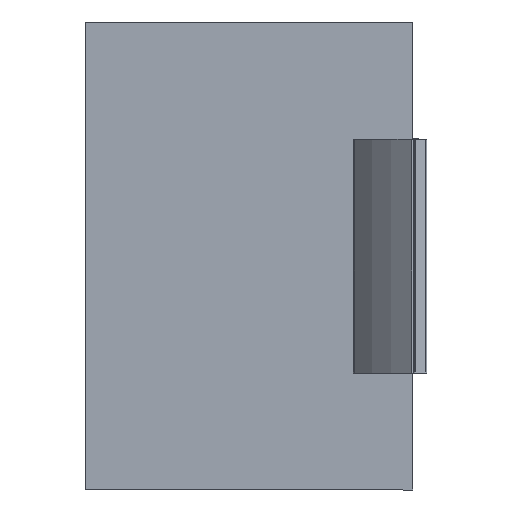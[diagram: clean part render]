
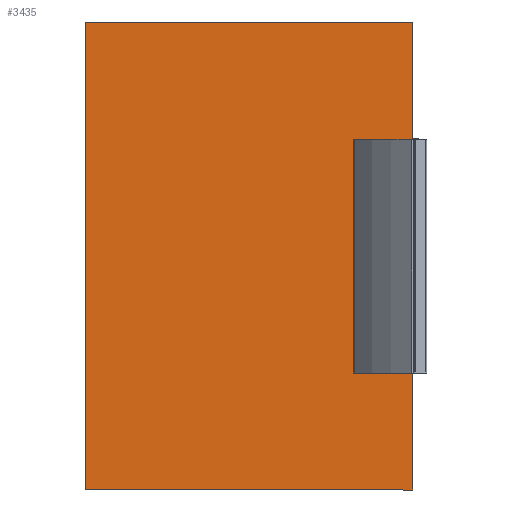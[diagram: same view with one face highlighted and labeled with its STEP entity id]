
A CAD part, left-side view. The second image highlights one B-rep face of the part: STEP entity #3435.
In plain terms, the highlighted planar face has unit normal (-1, 0, 0) as drawn and (0, -1, 0) by its records, which use the part's own axes.
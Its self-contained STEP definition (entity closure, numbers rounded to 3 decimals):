
#134=PLANE('',#3760);
#308=FACE_OUTER_BOUND('',#482,.T.);
#482=EDGE_LOOP('',(#3127,#3128,#3129,#3130));
#826=LINE('',#5751,#1180);
#827=LINE('',#5754,#1181);
#828=LINE('',#5756,#1182);
#829=LINE('',#5757,#1183);
#1180=VECTOR('',#4731,100.);
#1181=VECTOR('',#4734,70.);
#1182=VECTOR('',#4735,70.);
#1183=VECTOR('',#4736,100.);
#1662=VERTEX_POINT('',#5745);
#1664=VERTEX_POINT('',#5749);
#1665=VERTEX_POINT('',#5753);
#1666=VERTEX_POINT('',#5755);
#2154=EDGE_CURVE('',#1662,#1664,#826,.T.);
#2155=EDGE_CURVE('',#1662,#1665,#827,.T.);
#2156=EDGE_CURVE('',#1666,#1664,#828,.T.);
#2157=EDGE_CURVE('',#1665,#1666,#829,.T.);
#3127=ORIENTED_EDGE('',*,*,#2155,.F.);
#3128=ORIENTED_EDGE('',*,*,#2154,.T.);
#3129=ORIENTED_EDGE('',*,*,#2156,.F.);
#3130=ORIENTED_EDGE('',*,*,#2157,.F.);
#3435=ADVANCED_FACE('',(#308),#134,.T.);
#3760=AXIS2_PLACEMENT_3D('',#5752,#4732,#4733);
#4731=DIRECTION('',(0.,0.,1.));
#4732=DIRECTION('center_axis',(0.,-1.,0.));
#4733=DIRECTION('ref_axis',(1.,0.,0.));
#4734=DIRECTION('',(-1.,0.,0.));
#4735=DIRECTION('',(1.,0.,0.));
#4736=DIRECTION('',(0.,0.,1.));
#5745=CARTESIAN_POINT('',(40.692,-4.78,0.));
#5749=CARTESIAN_POINT('',(40.692,-4.78,100.));
#5751=CARTESIAN_POINT('',(40.692,-4.78,0.));
#5752=CARTESIAN_POINT('Origin',(-29.308,-4.78,0.));
#5753=CARTESIAN_POINT('',(-29.308,-4.78,0.));
#5754=CARTESIAN_POINT('',(40.692,-4.78,0.));
#5755=CARTESIAN_POINT('',(-29.308,-4.78,100.));
#5756=CARTESIAN_POINT('',(40.692,-4.78,100.));
#5757=CARTESIAN_POINT('',(-29.308,-4.78,0.));
